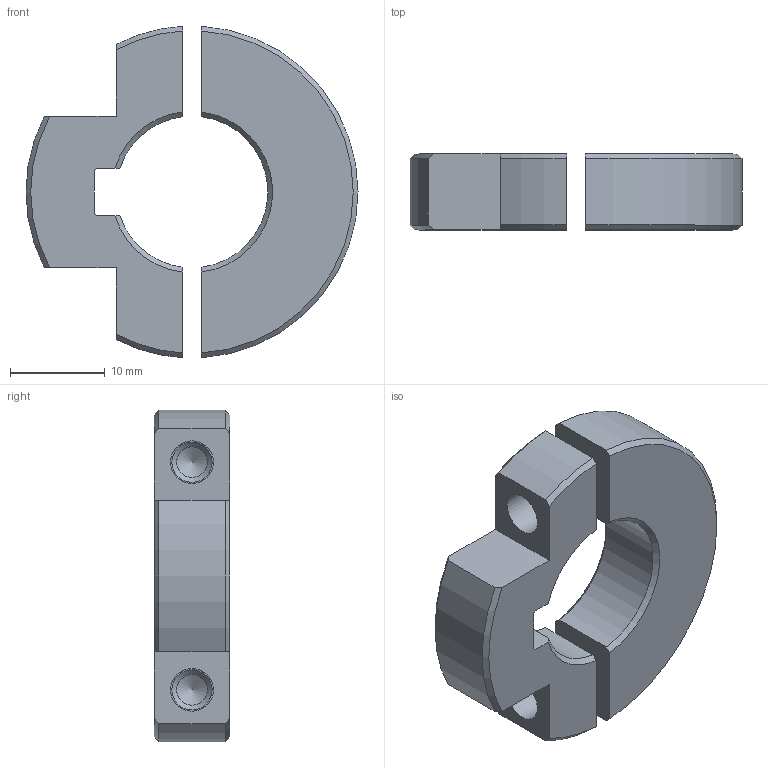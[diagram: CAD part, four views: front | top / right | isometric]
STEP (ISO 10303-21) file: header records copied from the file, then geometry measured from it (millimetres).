
FILE_DESCRIPTION(('STEP AP203'), '1');
FILE_NAME('ÒÏÏÔ1800.01.01.00.033 Ñêîáà êðåïëåíèÿ', '', ('UNSPECIFIED'), ('UNSPECIFIED'), 'C3D Converter', 'C3D Toolkit', '');
FILE_SCHEMA(('CONFIG_CONTROL_DESIGN'));
Length unit declared in the file: millimetre
Products named in the file (1): ТППФ1800.01.01.00.033
Bounding box: 35 x 8 x 34.94 mm (x, y, z)
Volume: 4739.1 mm3; surface area: 3132.4 mm2
Topology: 2 solids, 2 shells, 46 faces, 122 edges, 80 vertices
Faces by surface type: cone 18, plane 17, cylinder 11
Full cylindrical faces by diameter (mm): 3.242 x2, 4.5 x2
Entity records: 1980 total; most frequent: CARTESIAN_POINT 477, ORIENTED_EDGE 224, DIRECTION 216, EDGE_CURVE 112, AXIS2_PLACEMENT_3D 85, VERTEX_POINT 78, EDGE_LOOP 58, COLOUR_RGB 48
